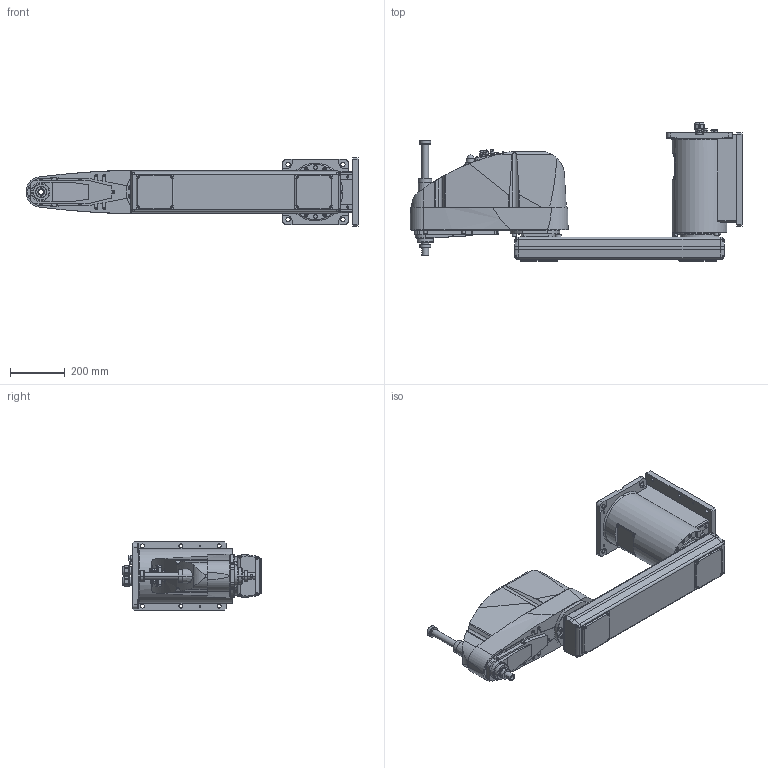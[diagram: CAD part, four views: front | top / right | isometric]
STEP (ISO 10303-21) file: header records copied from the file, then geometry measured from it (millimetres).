
FILE_DESCRIPTION( ( '' ), '1' );
FILE_NAME( '//expscmdclustefs.cadenas.external/client_exchange/iodir/jobs/output/wkb51489439_no0/STEP/G20_A01SW_2_14b.stp', '2012-11-22T08:42:28', ( '' ), ( '' ), ' ', ' ', ' ' );
FILE_SCHEMA( ( 'automotive_design' ) );
Length unit declared in the file: millimetre
Products named in the file (4): 1; 2; 3; 4
Bounding box: 1210.5 x 506.5 x 250 mm (x, y, z)
Volume: 43931252.9 mm3; surface area: 1540852.5 mm2
Topology: 4 solids, 4 shells, 1841 faces, 4459 edges, 2897 vertices
Faces by surface type: plane 1006, cylinder 621, cone 190, torus 23, sphere 1
Entity records: 106521 total; most frequent: CARTESIAN_POINT 10584, DIRECTION 9552, STYLED_ITEM 9189, PRESENTATION_STYLE_ASSIGNMENT 9189, COLOUR_RGB 9189, ORIENTED_EDGE 8894, EDGE_CURVE 4447, CURVE_STYLE 4447
